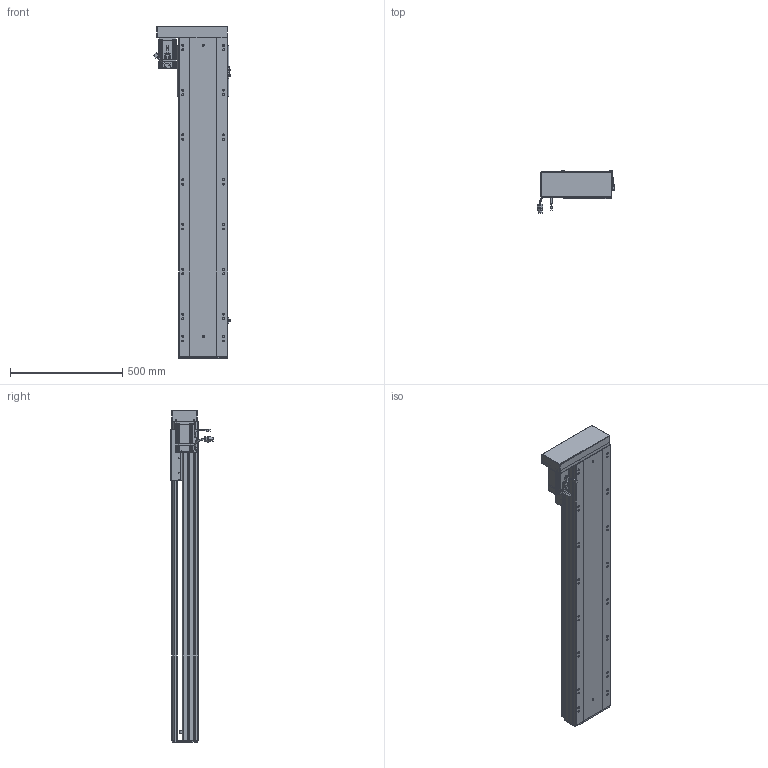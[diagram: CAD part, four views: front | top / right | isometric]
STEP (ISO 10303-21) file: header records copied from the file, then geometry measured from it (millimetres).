
FILE_DESCRIPTION (( 'STEP AP203' ), '1' );
FILE_NAME ('RY220-L2525-300-LK.SLDASM_1100.step', '2022-07-04T01:47:04', ( '' ), ( '' ), 'SwSTEP 2.0', 'SolidWorks 2016', '' );
FILE_SCHEMA (( 'CONFIG_CONTROL_DESIGN' ));
Length unit declared in the file: millimetre
Products named in the file (12): 滅袉蝶18-10; RY220-L2525-300-LK.SLDASM_1100; RY220左右折电机安装板; 滅袉蝶18-15; 怢湛750W_ECMA-CX0807ES; RY220半封闭25-32螺母铝滑块; RY220-300-蛌殏奻裔啣_1100; RY220綴裔啣; RY220-俋离672覜茼んえ; RY220蛌殏菁釱-300_1100; 覜茼ん672; RY220酘衵殏萇儂欶
Assembly tree (15 placements, depth 2):
  RY220-L2525-300-LK.SLDASM_1100
    RY220蛌殏菁釱-300_1100
    RY220-300-蛌殏奻裔啣_1100
    怢湛750W_ECMA-CX0807ES
    滅袉蝶18-10  x2
    RY220-俋离672覜茼んえ
    覜茼ん672  x3
    RY220綴裔啣
    RY220半封闭25-32螺母铝滑块
    滅袉蝶18-15  x2
    RY220左右折电机安装板
    RY220酘衵殏萇儂欶
Bounding box: 347.44 x 189.27 x 1482 mm (x, y, z)
Volume: 12205414 mm3; surface area: 3589385.5 mm2
Topology: 16 solids, 16 shells, 2185 faces, 6028 edges, 3807 vertices
Faces by surface type: cylinder 989, plane 896, cone 230, bspline 44, sphere 16, torus 10
Entity records: 72125 total; most frequent: CARTESIAN_POINT 20919, ORIENTED_EDGE 10624, DIRECTION 10008, EDGE_CURVE 5312, AXIS2_PLACEMENT_3D 3523, VERTEX_POINT 3463, VECTOR 2962, LINE 2962
